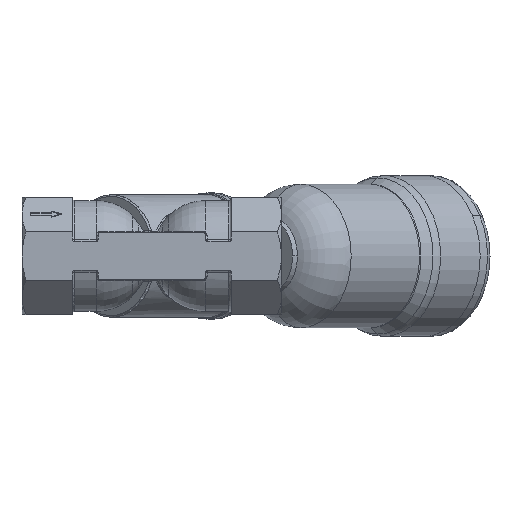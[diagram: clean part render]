
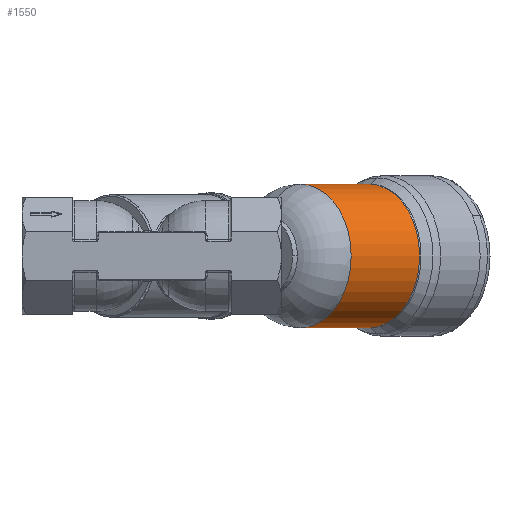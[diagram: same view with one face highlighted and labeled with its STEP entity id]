
A CAD part, front view. The second image highlights one B-rep face of the part: STEP entity #1550.
In plain terms, the highlighted cylindrical face has radius 41.5 mm (diameter 83 mm), a partial arc.
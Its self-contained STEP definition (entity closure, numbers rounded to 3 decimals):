
#625 = DIRECTION ( 'NONE',  ( -0.707, -0.707, 0. ) ) ;
#1057 = DIRECTION ( 'NONE',  ( -0.707, -0.707, 0. ) ) ;
#1238 = EDGE_CURVE ( 'NONE', #7860, #13298, #3045, .T. ) ;
#1264 = AXIS2_PLACEMENT_3D ( 'NONE', #11276, #4565, #12422 ) ;
#1271 = CIRCLE ( 'NONE', #2081, 41.5 ) ;
#1276 = EDGE_LOOP ( 'NONE', ( #14546, #6770, #11561, #4867 ) ) ;
#1550 = ADVANCED_FACE ( 'NONE', ( #10739 ), #4400, .T. ) ;
#1708 = CARTESIAN_POINT ( 'NONE',  ( 125.562, 158.062, 0. ) ) ;
#1719 = CARTESIAN_POINT ( 'NONE',  ( 126.304, 158.804, 41.5 ) ) ;
#1969 = EDGE_CURVE ( 'NONE', #9958, #7860, #1271, .T. ) ;
#2081 = AXIS2_PLACEMENT_3D ( 'NONE', #1708, #9545, #2808 ) ;
#2279 = EDGE_CURVE ( 'NONE', #14578, #13298, #4382, .T. ) ;
#2694 = VECTOR ( 'NONE', #2775, 1000. ) ;
#2775 = DIRECTION ( 'NONE',  ( -0.707, -0.707, 0. ) ) ;
#2808 = DIRECTION ( 'NONE',  ( 0., 0., 1. ) ) ;
#2896 = CARTESIAN_POINT ( 'NONE',  ( 85.999, 118.499, 41.5 ) ) ;
#3045 = LINE ( 'NONE', #1719, #2694 ) ;
#3378 = LINE ( 'NONE', #7333, #7083 ) ;
#4382 = CIRCLE ( 'NONE', #1264, 41.5 ) ;
#4400 = CYLINDRICAL_SURFACE ( 'NONE', #12408, 41.5 ) ;
#4565 = DIRECTION ( 'NONE',  ( -0.707, -0.707, 0. ) ) ;
#4867 = ORIENTED_EDGE ( 'NONE', *, *, #10527, .F. ) ;
#4934 = CARTESIAN_POINT ( 'NONE',  ( 85.999, 118.499, -41.5 ) ) ;
#6770 = ORIENTED_EDGE ( 'NONE', *, *, #1238, .T. ) ;
#7083 = VECTOR ( 'NONE', #625, 1000. ) ;
#7333 = CARTESIAN_POINT ( 'NONE',  ( 126.304, 158.804, -41.5 ) ) ;
#7743 = DIRECTION ( 'NONE',  ( 0., 0., -1. ) ) ;
#7860 = VERTEX_POINT ( 'NONE', #14324 ) ;
#9545 = DIRECTION ( 'NONE',  ( -0.707, -0.707, 0. ) ) ;
#9958 = VERTEX_POINT ( 'NONE', #11546 ) ;
#10527 = EDGE_CURVE ( 'NONE', #9958, #14578, #3378, .T. ) ;
#10739 = FACE_OUTER_BOUND ( 'NONE', #1276, .T. ) ;
#11076 = CARTESIAN_POINT ( 'NONE',  ( 126.304, 158.804, 0. ) ) ;
#11276 = CARTESIAN_POINT ( 'NONE',  ( 85.999, 118.499, 0. ) ) ;
#11546 = CARTESIAN_POINT ( 'NONE',  ( 125.562, 158.062, -41.5 ) ) ;
#11561 = ORIENTED_EDGE ( 'NONE', *, *, #2279, .F. ) ;
#12408 = AXIS2_PLACEMENT_3D ( 'NONE', #11076, #1057, #7743 ) ;
#12422 = DIRECTION ( 'NONE',  ( 0., 0., -1. ) ) ;
#13298 = VERTEX_POINT ( 'NONE', #2896 ) ;
#14324 = CARTESIAN_POINT ( 'NONE',  ( 125.562, 158.062, 41.5 ) ) ;
#14546 = ORIENTED_EDGE ( 'NONE', *, *, #1969, .T. ) ;
#14578 = VERTEX_POINT ( 'NONE', #4934 ) ;
